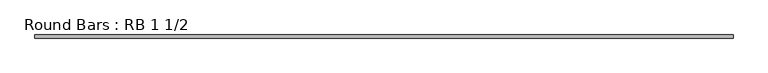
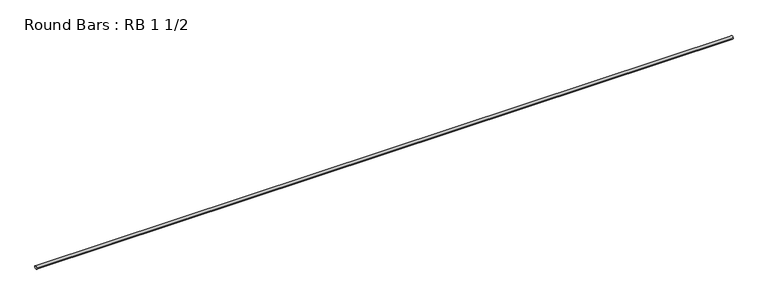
"""IFC4 building model written with IfcOpenShell, lengths in millimetres: member geometry, Round Bars : RB 1 1/2."""

from ifc_helpers import new_model, si_unit, point, frame, origin, origin_2d, place, context, project, spatial, circle_curve, trimmed, segment, composite_curve, outline, extrude, source, transform, mapped, element, save


def round_bars_rb_1_1_2_57971bae(model_context):
    return source(origin(), model_context, "Body", "SweptSolid", [
        extrude(outline(composite_curve([segment(trimmed(circle_curve(origin_2d(), 19.05), [point((19.05, 0.0))], [point((-19.05, 0.0))], False, "CARTESIAN"), True, "CONTINUOUS"), segment(trimmed(circle_curve(origin_2d(), 19.05), [point((-19.05, 0.0))], [point((19.05, 0.0))], False, "CARTESIAN"), True, "CONTINUOUS")], self_intersect=False)), frame((-4155.001784, 0.0, 0.0), z_axis=(1.0, 0.0, 0.0), x_axis=(0.0, 1.0, 0.0)), (0.0, 0.0, 1.0), 8403.3490044),
    ])


if __name__ == "__main__":
    model = new_model("IFC4")
    model_context = context("Model", 3, world=origin())
    ifc_project = project(units=[si_unit("LENGTHUNIT", "METRE", prefix="MILLI")], contexts=[model_context])
    site = spatial("IfcSite", under=ifc_project)
    building = spatial("IfcBuilding", under=site)
    placement = place(None, origin())
    round_bars_rb_1_1_2_shape = round_bars_rb_1_1_2_57971bae(model_context)
    element("IfcMember", 1, ObjectType="Round Bars : RB 1 1/2", at=placement, inside=building, context=model_context, shape_type="MappedRepresentation", body=[
        mapped(round_bars_rb_1_1_2_shape, transform((0.0, 0.0, 0.0), x_axis=(1.0, 0.0, 0.0), y_axis=(0.0, 1.0, 0.0), z_axis=(0.0, 0.0, 1.0))),
    ])
    save(model, "model.ifc")
